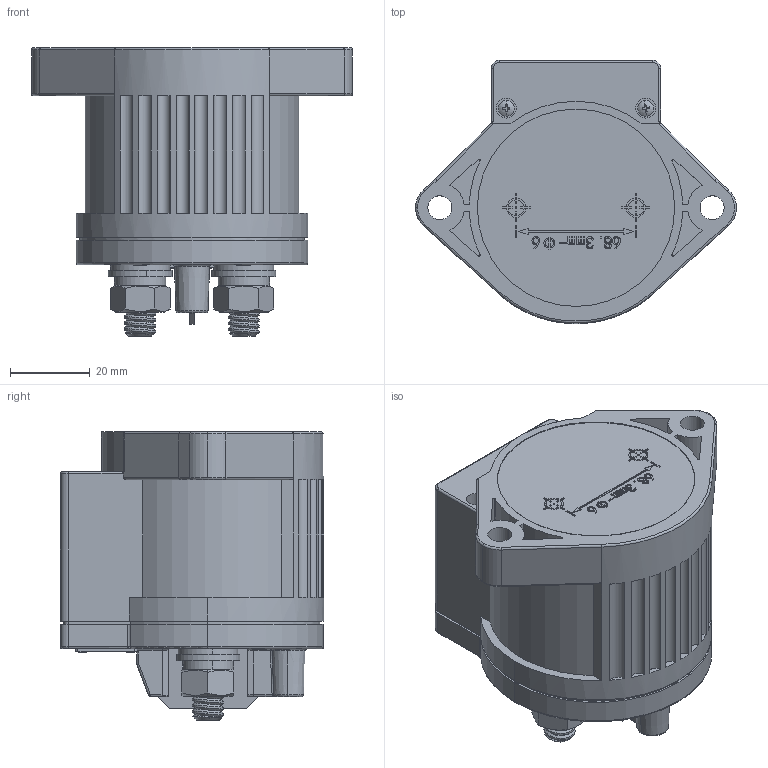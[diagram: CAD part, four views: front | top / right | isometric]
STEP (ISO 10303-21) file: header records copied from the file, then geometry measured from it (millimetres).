
FILE_DESCRIPTION (( 'STEP AP203' ), '1' );
FILE_NAME ('NDZ3-150J-200-250-300、NDZ3X-150J-200-250-300、NDZ3W-150-200-250-300模型（有辅助）.STEP', '2022-06-10T00:24:49', ( '' ), ( '' ), 'SwSTEP 2.0', 'SolidWorks 2018', '' );
FILE_SCHEMA (( 'CONFIG_CONTROL_DESIGN' ));
Length unit declared in the file: millimetre
Products named in the file (2): NDZ3-150J-200-250-300、NDZ3X-150J-200-250-300、NDZ3W-150-200-250-300模型（有辅助）
Bounding box: 80.5 x 66 x 72.3 mm (x, y, z)
Volume: 133511.3 mm3; surface area: 59312.7 mm2
Topology: 9 solids, 13 shells, 1886 faces, 5103 edges, 3308 vertices
Faces by surface type: plane 1153, cylinder 417, torus 114, bspline 99, cone 85, sphere 18
Entity records: 69738 total; most frequent: CARTESIAN_POINT 22231, ORIENTED_EDGE 10194, DIRECTION 9595, EDGE_CURVE 5097, VERTEX_POINT 3308, AXIS2_PLACEMENT_3D 3215, LINE 3165, VECTOR 3165
